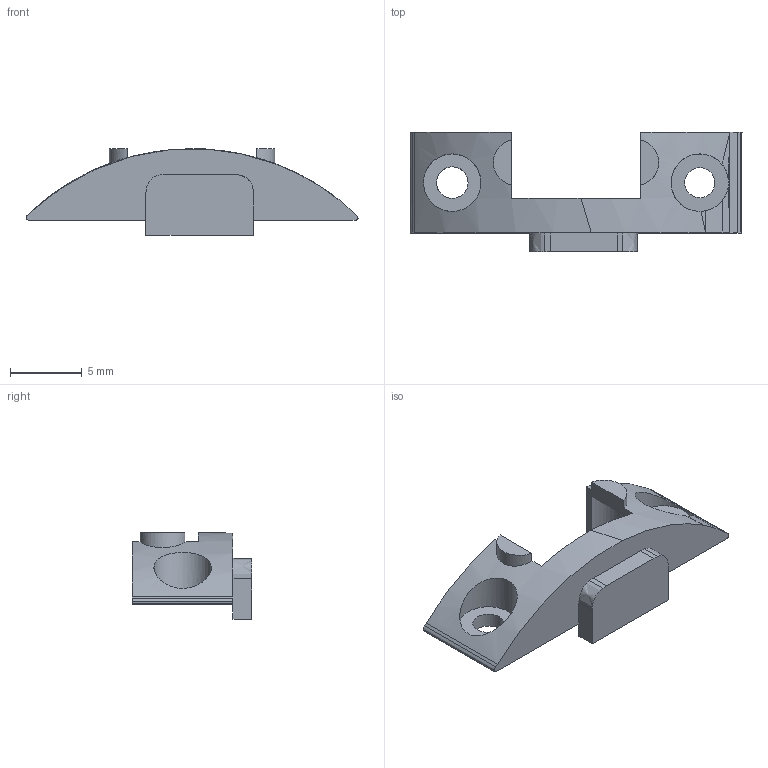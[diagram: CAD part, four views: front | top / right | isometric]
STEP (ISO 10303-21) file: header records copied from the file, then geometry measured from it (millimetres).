
FILE_DESCRIPTION(('Open CASCADE Model'),'2;1');
FILE_NAME('Open CASCADE Shape Model','2026-10-26T18:48:49',('Author'),( 'Open CASCADE'),'Open CASCADE STEP processor 7.9','Open CASCADE 7.9' ,'Unknown');
FILE_SCHEMA(('AUTOMOTIVE_DESIGN { 1 0 10303 214 1 1 1 1 }'));
Length unit declared in the file: millimetre
Products named in the file (1): Open CASCADE STEP translator 7.9 1
Bounding box: 23.09 x 8.3 x 6.04 mm (x, y, z)
Volume: 348.5 mm3; surface area: 559.1 mm2
Topology: 1 solids, 1 shells, 50 faces, 136 edges, 89 vertices
Faces by surface type: plane 32, cylinder 10, bspline 8
Full cylindrical faces by diameter (mm): 2.1 x1, 2.2 x1, 4 x1
Entity records: 6672 total; most frequent: CARTESIAN_POINT 4237, DIRECTION 351, ORIENTED_EDGE 272, PCURVE 272, DEFINITIONAL_REPRESENTATION 272, LINE 219, VECTOR 219, B_SPLINE_CURVE_WITH_KNOTS 150
